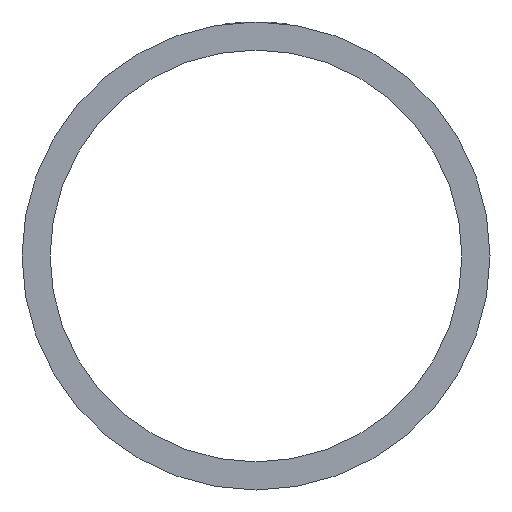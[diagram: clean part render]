
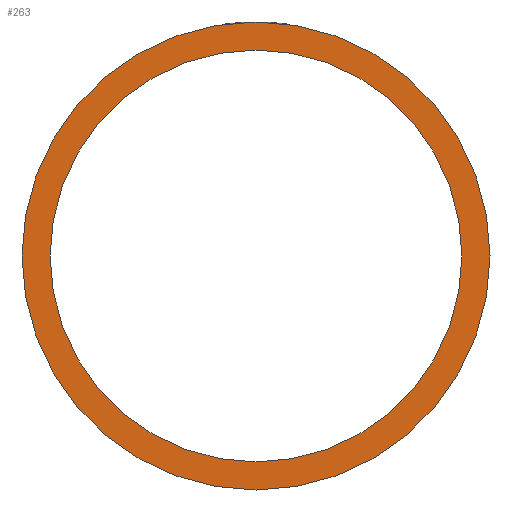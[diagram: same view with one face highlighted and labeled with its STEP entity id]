
A CAD part, front view. The second image highlights one B-rep face of the part: STEP entity #263.
In plain terms, the highlighted planar face has unit normal (0, -1, 0).
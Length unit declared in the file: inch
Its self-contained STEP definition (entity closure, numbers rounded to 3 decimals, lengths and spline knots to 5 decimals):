
#3 = DIRECTION ( 'NONE',  ( 0., 0., 1. ) ) ;
#44 = CARTESIAN_POINT ( 'NONE',  ( 0., 0., 0. ) ) ;
#45 = DIRECTION ( 'NONE',  ( 0., 1., 0. ) ) ;
#47 = DIRECTION ( 'NONE',  ( 0., 1., 0. ) ) ;
#51 = CARTESIAN_POINT ( 'NONE',  ( 0., 0., 0. ) ) ;
#63 = DIRECTION ( 'NONE',  ( 1., 0., 0. ) ) ;
#122 = PLANE ( 'NONE',  #442 ) ;
#131 = CARTESIAN_POINT ( 'NONE',  ( 0., 0., -1. ) ) ;
#132 = DIRECTION ( 'NONE',  ( 0., 1., 0. ) ) ;
#135 = CARTESIAN_POINT ( 'NONE',  ( 0., 0., 0.88 ) ) ;
#137 = CARTESIAN_POINT ( 'NONE',  ( 0., 0., -0.88 ) ) ;
#143 = DIRECTION ( 'NONE',  ( 0., 0., 1. ) ) ;
#155 = CARTESIAN_POINT ( 'NONE',  ( 0., 0., 1. ) ) ;
#162 = CARTESIAN_POINT ( 'NONE',  ( 0., 0., 0. ) ) ;
#174 = DIRECTION ( 'NONE',  ( 0., 1., 0. ) ) ;
#179 = CARTESIAN_POINT ( 'NONE',  ( 0., 0., 0. ) ) ;
#187 = DIRECTION ( 'NONE',  ( 1., 0., 0. ) ) ;
#195 = DIRECTION ( 'NONE',  ( 0., 0., 1. ) ) ;
#198 = DIRECTION ( 'NONE',  ( 0., 1., 0. ) ) ;
#201 = CARTESIAN_POINT ( 'NONE',  ( 0., 0., 0. ) ) ;
#263 = ADVANCED_FACE ( 'NONE', ( #361, #365 ), #122, .F. ) ;
#277 = EDGE_LOOP ( 'NONE', ( #313, #302 ) ) ;
#280 = EDGE_LOOP ( 'NONE', ( #334, #306 ) ) ;
#302 = ORIENTED_EDGE ( 'NONE', *, *, #439, .F. ) ;
#306 = ORIENTED_EDGE ( 'NONE', *, *, #477, .T. ) ;
#313 = ORIENTED_EDGE ( 'NONE', *, *, #470, .F. ) ;
#318 = VERTEX_POINT ( 'NONE', #137 ) ;
#334 = ORIENTED_EDGE ( 'NONE', *, *, #455, .T. ) ;
#344 = VERTEX_POINT ( 'NONE', #135 ) ;
#346 = VERTEX_POINT ( 'NONE', #155 ) ;
#349 = VERTEX_POINT ( 'NONE', #131 ) ;
#361 = FACE_OUTER_BOUND ( 'NONE', #277, .T. ) ;
#365 = FACE_BOUND ( 'NONE', #280, .T. ) ;
#369 = CIRCLE ( 'NONE', #447, 1. ) ;
#375 = CIRCLE ( 'NONE', #448, 0.88 ) ;
#400 = CIRCLE ( 'NONE', #485, 1. ) ;
#405 = CIRCLE ( 'NONE', #452, 0.88 ) ;
#439 = EDGE_CURVE ( 'NONE', #346, #349, #369, .T. ) ;
#442 = AXIS2_PLACEMENT_3D ( 'NONE', #162, #132, #143 ) ;
#447 = AXIS2_PLACEMENT_3D ( 'NONE', #201, #198, #195 ) ;
#448 = AXIS2_PLACEMENT_3D ( 'NONE', #179, #174, #187 ) ;
#452 = AXIS2_PLACEMENT_3D ( 'NONE', #51, #47, #63 ) ;
#455 = EDGE_CURVE ( 'NONE', #318, #344, #375, .T. ) ;
#470 = EDGE_CURVE ( 'NONE', #349, #346, #400, .T. ) ;
#477 = EDGE_CURVE ( 'NONE', #344, #318, #405, .T. ) ;
#485 = AXIS2_PLACEMENT_3D ( 'NONE', #44, #45, #3 ) ;
